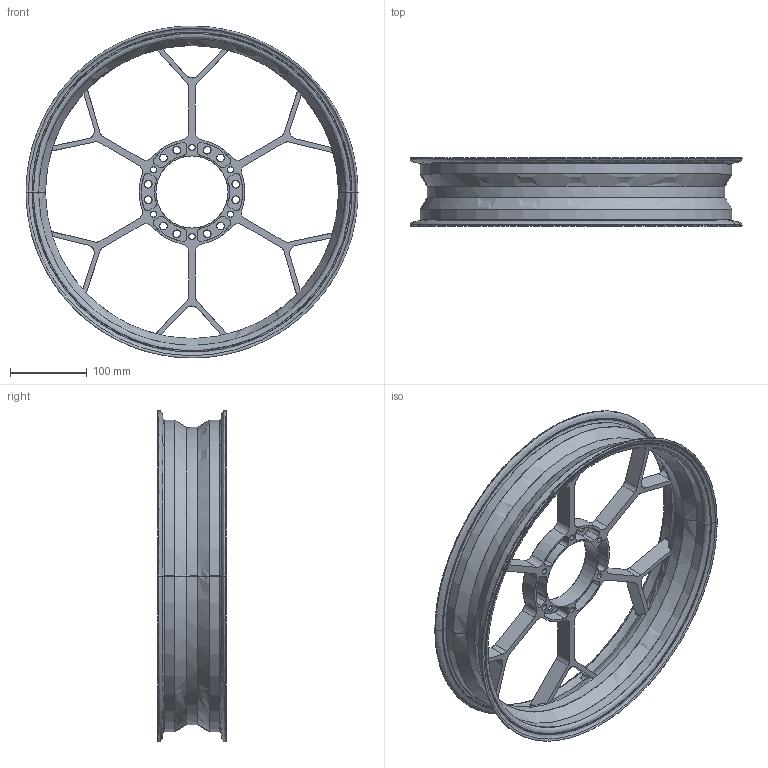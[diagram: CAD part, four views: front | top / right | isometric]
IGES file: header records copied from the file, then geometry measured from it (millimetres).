
Start section: SolidWorks IGES file using analytic representation for surfaces
Global section: file name: C:\Users\Yunus\Desktop\Jant\Pehlivan Team Jant.IGS; native system: SolidWorks 2015; preprocessor: SolidWorks 2015; author: Yunus; date: 160625.191612; units: millimetre
Bounding box: 433 x 89 x 432.63 mm (x, y, z)
Surface area: 404836 mm2 (no closed solid volume)
Topology: 0 solids, 0 shells, 269 faces, 5019 edges, 5019 vertices
Faces by surface type: revolution 149, bspline 120
